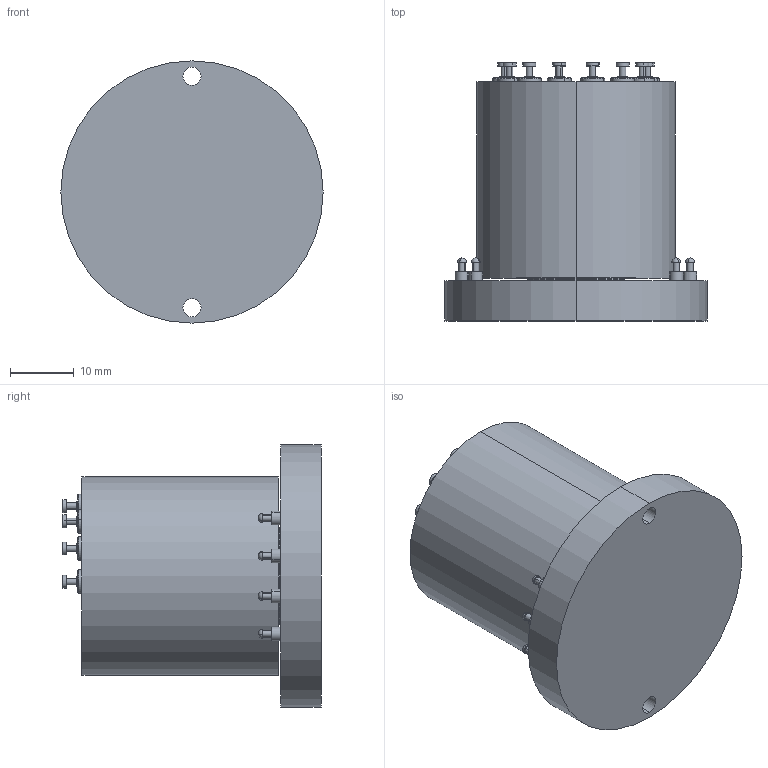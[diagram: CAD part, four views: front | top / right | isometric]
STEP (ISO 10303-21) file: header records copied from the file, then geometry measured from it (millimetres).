
FILE_DESCRIPTION (( 'STEP AP214' ), '1' );
FILE_NAME ('1016074.STEP', '2020-07-13T15:37:00', ( '' ), ( '' ), 'SwSTEP 2.0', 'SolidWorks 2019', '' );
FILE_SCHEMA (( 'AUTOMOTIVE_DESIGN' ));
Length unit declared in the file: inch
Products named in the file (1): 1016074
Bounding box: 41.26 x 40.6 x 41.26 mm (x, y, z)
Volume: 32055.6 mm3; surface area: 8204.6 mm2
Topology: 1 solids, 1 shells, 693 faces, 1747 edges, 1156 vertices
Faces by surface type: plane 364, bspline 171, cylinder 124, cone 16, sphere 16, torus 2
Entity records: 29575 total; most frequent: CARTESIAN_POINT 13904, ORIENTED_EDGE 3430, DIRECTION 2719, EDGE_CURVE 1715, VERTEX_POINT 1140, LINE 1073, VECTOR 1073, AXIS2_PLACEMENT_3D 823
